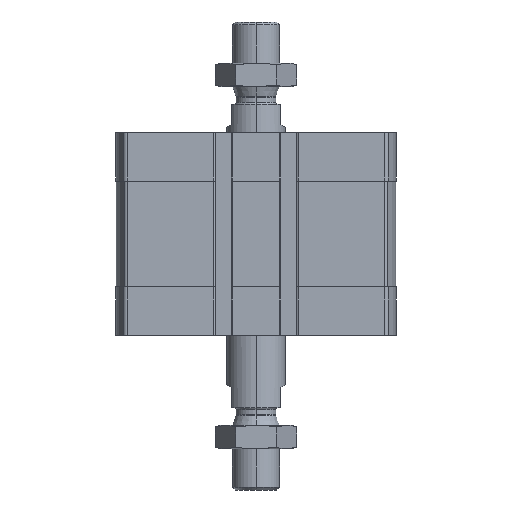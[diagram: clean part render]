
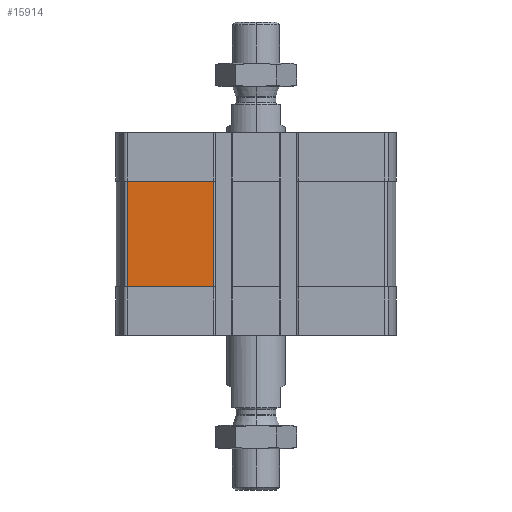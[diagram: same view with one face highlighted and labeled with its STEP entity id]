
A CAD part, left-side view. The second image highlights one B-rep face of the part: STEP entity #15914.
In plain terms, the highlighted planar face has unit normal (-1, 0, 0).
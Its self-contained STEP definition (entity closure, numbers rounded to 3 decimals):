
#89 = DIRECTION ( 'NONE',  ( 0., -1., 0. ) ) ;
#267 = ORIENTED_EDGE ( 'NONE', *, *, #11311, .T. ) ;
#708 = DIRECTION ( 'NONE',  ( 0., 0., 1. ) ) ;
#2158 = VERTEX_POINT ( 'NONE', #16425 ) ;
#2553 = PLANE ( 'NONE',  #11646 ) ;
#2586 = EDGE_CURVE ( 'NONE', #17751, #6838, #6124, .T. ) ;
#3127 = LINE ( 'NONE', #15655, #9824 ) ;
#3818 = DIRECTION ( 'NONE',  ( -1., 0., 0. ) ) ;
#4332 = VECTOR ( 'NONE', #10455, 1000. ) ;
#4375 = VECTOR ( 'NONE', #89, 1000. ) ;
#4967 = CARTESIAN_POINT ( 'NONE',  ( -47.5, 43.743, -52.5 ) ) ;
#5267 = CARTESIAN_POINT ( 'NONE',  ( -47.5, 43.743, -52.5 ) ) ;
#6124 = LINE ( 'NONE', #9099, #7373 ) ;
#6397 = ORIENTED_EDGE ( 'NONE', *, *, #2586, .F. ) ;
#6838 = VERTEX_POINT ( 'NONE', #7286 ) ;
#6849 = EDGE_CURVE ( 'NONE', #2158, #6838, #3127, .T. ) ;
#7286 = CARTESIAN_POINT ( 'NONE',  ( -47.5, 14.3, -16.5 ) ) ;
#7373 = VECTOR ( 'NONE', #12771, 1000. ) ;
#8047 = FACE_OUTER_BOUND ( 'NONE', #16739, .T. ) ;
#8552 = VERTEX_POINT ( 'NONE', #15095 ) ;
#9099 = CARTESIAN_POINT ( 'NONE',  ( -47.5, 43.743, -16.5 ) ) ;
#9544 = LINE ( 'NONE', #13844, #4375 ) ;
#9824 = VECTOR ( 'NONE', #708, 1000. ) ;
#10135 = EDGE_CURVE ( 'NONE', #8552, #17751, #14600, .T. ) ;
#10455 = DIRECTION ( 'NONE',  ( 0., 0., 1. ) ) ;
#11148 = ORIENTED_EDGE ( 'NONE', *, *, #10135, .F. ) ;
#11311 = EDGE_CURVE ( 'NONE', #8552, #2158, #9544, .T. ) ;
#11646 = AXIS2_PLACEMENT_3D ( 'NONE', #5267, #3818, #16242 ) ;
#12771 = DIRECTION ( 'NONE',  ( 0., -1., 0. ) ) ;
#13844 = CARTESIAN_POINT ( 'NONE',  ( -47.5, 43.743, -52.5 ) ) ;
#14228 = ORIENTED_EDGE ( 'NONE', *, *, #6849, .T. ) ;
#14600 = LINE ( 'NONE', #4967, #4332 ) ;
#14839 = CARTESIAN_POINT ( 'NONE',  ( -47.5, 43.743, -16.5 ) ) ;
#15095 = CARTESIAN_POINT ( 'NONE',  ( -47.5, 43.743, -52.5 ) ) ;
#15655 = CARTESIAN_POINT ( 'NONE',  ( -47.5, 14.3, -52.5 ) ) ;
#15914 = ADVANCED_FACE ( 'NONE', ( #8047 ), #2553, .T. ) ;
#16242 = DIRECTION ( 'NONE',  ( 0., 0., 1. ) ) ;
#16425 = CARTESIAN_POINT ( 'NONE',  ( -47.5, 14.3, -52.5 ) ) ;
#16739 = EDGE_LOOP ( 'NONE', ( #6397, #11148, #267, #14228 ) ) ;
#17751 = VERTEX_POINT ( 'NONE', #14839 ) ;
